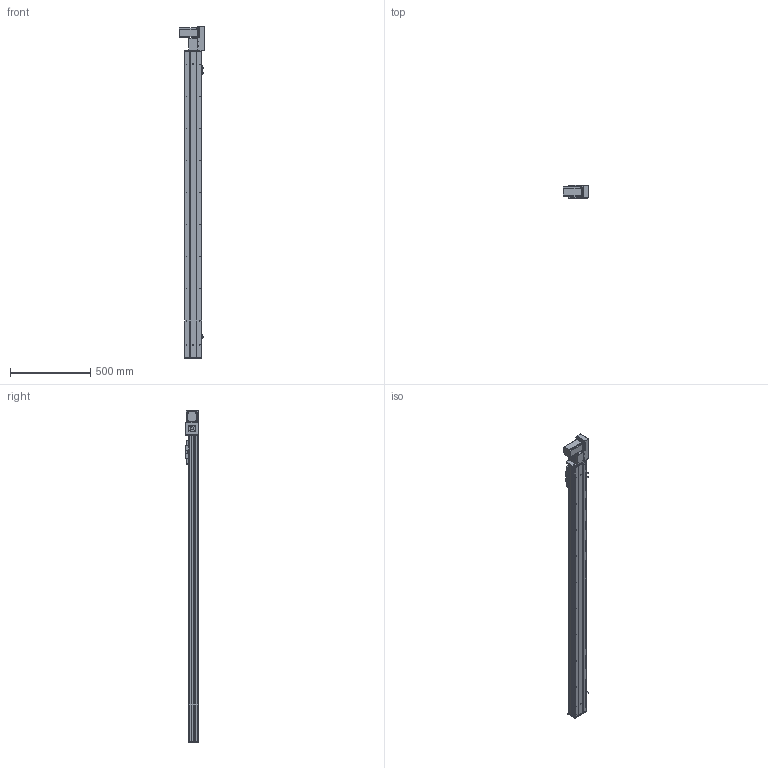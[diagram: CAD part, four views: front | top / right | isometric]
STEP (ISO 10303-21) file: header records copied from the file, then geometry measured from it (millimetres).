
FILE_DESCRIPTION (( 'STEP AP203' ), '1' );
FILE_NAME ('Y10CB-D90-S1650-BR-P400W.STEP', '2020-02-16T02:03:57', ( '微软用户' ), ( '微软中国' ), 'SwSTEP 2.0', 'SolidWorks 2017', '' );
FILE_SCHEMA (( 'CONFIG_CONTROL_DESIGN' ));
Length unit declared in the file: millimetre
Products named in the file (18): Y10CB- 掛极耜裔啣-毀---; Y10B-々湍喘謫眊楊擘啣--; Y10C---詩湍揤啣; Y10B-耜蚾蟀諉啣----; 10CB9-掛极; 0B-萇儂楊擘啣; 10CB-耜裔; san松下电机400不带刹车----; Y135C-陔俋离換覜結え-; 0B-源倛裔啣; Y100-135俋离換覜ん--; 0B-埴倛裔啣; Y10B--々湍喘謫眊--666; Y俋欶BR----; 0CB-雄赽釱---; Y10CB-D90-S1650-BR-P400W; 10CB-詩湍-; 0Cb-俋欶---
Assembly tree (21 placements, depth 2):
  Y10CB-D90-S1650-BR-P400W
    0CB-雄赽釱---
    0Cb-俋欶---
    Y10B-々湍喘謫眊楊擘啣--
    Y10B-耜蚾蟀諉啣----
    0B-萇儂楊擘啣
    san松下电机400不带刹车----
    0B-源倛裔啣
    0B-埴倛裔啣
    Y俋欶BR----
    10CB-詩湍-
    Y10CB- 掛极耜裔啣-毀---  x2
    Y10C---詩湍揤啣  x2
    10CB9-掛极
    10CB-耜裔
    Y135C-陔俋离換覜結え-
    Y100-135俋离換覜ん--  x3
    Y10B--々湍喘謫眊--666
Bounding box: 157.5 x 80.5 x 2072.5 mm (x, y, z)
Volume: 4271053.3 mm3; surface area: 1984857.8 mm2
Topology: 21 solids, 21 shells, 1026 faces, 2763 edges, 1802 vertices
Faces by surface type: cylinder 517, plane 485, cone 24
Entity records: 32404 total; most frequent: CARTESIAN_POINT 5913, DIRECTION 5198, ORIENTED_EDGE 4996, EDGE_CURVE 2498, AXIS2_PLACEMENT_3D 1857, VERTEX_POINT 1628, VECTOR 1484, LINE 1484
